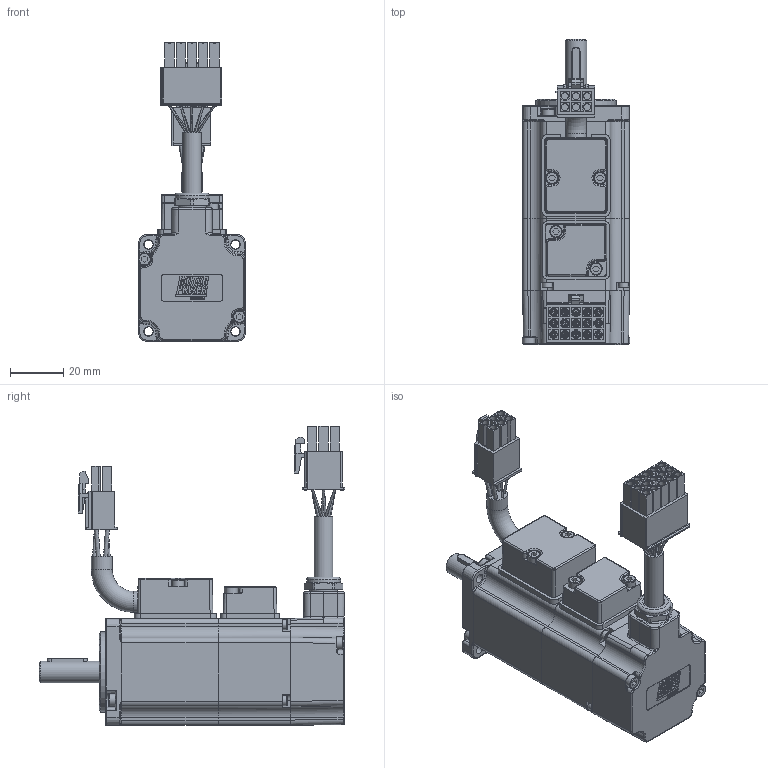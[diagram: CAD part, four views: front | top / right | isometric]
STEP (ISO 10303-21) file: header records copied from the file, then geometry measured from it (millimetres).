
FILE_DESCRIPTION(/* description */ ('Unknown'),/* implementation_level */ '2;1');
FILE_NAME(/* name */ 'TC4-40.1A.xx.x.2.M1.1.x.D2 Q0C913',/* time_stamp */ '2026-03-03T09:57:48+01:00',/* author */ ('Unknown'),/* organization */ ('Unknown'),/* preprocessor_version */ 'ST-DEVELOPER v19.4',/* originating_system */ 'Solid Edge',/* authorisation */ 'Unknown');
FILE_SCHEMA (('AUTOMOTIVE_DESIGN {1 0 10303 214 3 1 1}'));
Products named in the file (25): Q0C913 TC4-40 1A FRENO VUOTO; 005113000100; 005911000170; 003103040184; 005123005450; 005007000100_0.5; 005911000274; 003107003254; 003108010154; 001799000635; 005911000276; 005911003776; 003303000713; 003303000025; Albero TC4-40 H 14 M1 FRENO; 005603001004; 005911000598; 005911000185; 003108020616; 003303000709; 005453000452_D7,8; 003108010016_curvo; 001799000503; 003251040602; 003151003109
Assembly tree (32 placements, depth 3):
  Q0C913 TC4-40 1A FRENO VUOTO
    005113000100
    005911000170  x4
    003103040184
    005123005450
    005007000100_0.5
    005911000274
    003107003254
    003108010154
    001799000635
    005911000276  x2
    005911003776
    003303000713
    003303000025
    Albero TC4-40 H 14 M1 FRENO
    005603001004
    005911000598  x2
    005911000185  x4
    003108020616
      003303000709
      005453000452_D7,8
      003108010016_curvo
    001799000503
    003251040602
    003151003109
Bounding box: 40.2 x 114.49 x 111.95 mm (x, y, z)
Volume: 67507.1 mm3; surface area: 68657.8 mm2
Topology: 34 solids, 34 shells, 2730 faces, 6907 edges, 4434 vertices
Faces by surface type: plane 1640, cylinder 523, bspline 197, cone 157, torus 157, sphere 56
Full cylindrical faces by diameter (mm): 0.314 x1, 0.75 x1, 1.567 x8, 1.6 x1, 1.82 x15, 2 x4, 2.013 x25, 2.3 x4, 2.459 x4, 2.5 x16, 2.6 x21, 2.7 x4, 3 x2, 3.2 x1, 3.297 x2, 3.5 x2, 3.8 x6, 4 x4, 4.7 x10, 5 x1, 6 x1, 6.5 x1, 6.8 x1, 7 x1, 7.25 x1, 7.4 x1, 7.8 x2, 8 x3, 9.5 x1, 9.99 x1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
Entity records: 91589 total; most frequent: CARTESIAN_POINT 22422, ORIENTED_EDGE 12346, DIRECTION 11523, EDGE_CURVE 6173, LINE 4183, VECTOR 4183, VERTEX_POINT 4159, AXIS2_PLACEMENT_3D 3670
